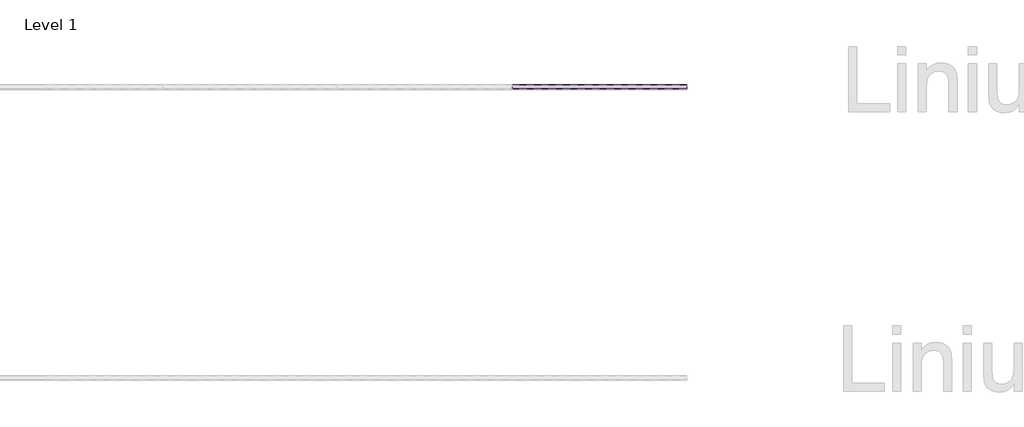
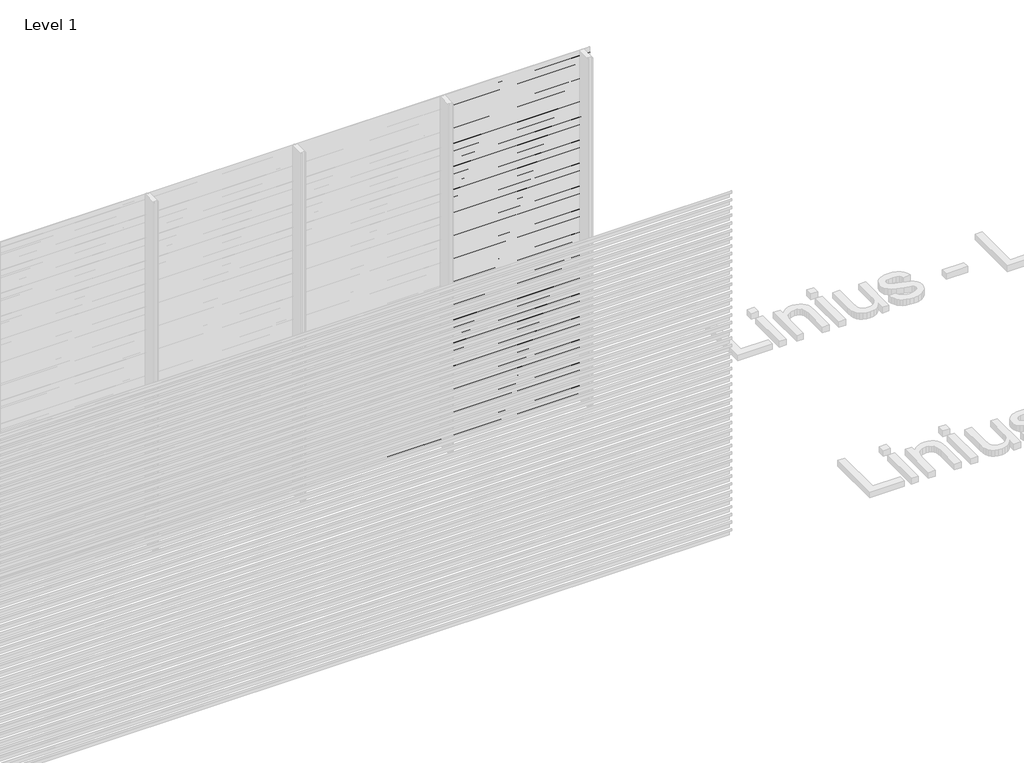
# One storey, part 52 of 540: 47 proxies.
"""IFC4 building model written with IfcOpenShell, lengths in millimetres."""

from ifc_helpers import new_model, si_unit, frame, origin, place, context, project, spatial, polyline, outline, extrude, element, save

model = new_model("IFC4")

# Units and contexts
model_context = context("Model", 3, world=origin())
ifc_project = project(units=[si_unit("LENGTHUNIT", "METRE", prefix="MILLI")], contexts=[model_context])

# Site, building, storey
site = spatial("IfcSite", under=ifc_project)
building = spatial("IfcBuilding", under=site)
storey = spatial("IfcBuildingStorey", under=building, Name="Level 1", Elevation=0.0)

# Proxies
placement = place(None, origin())
element("IfcBuildingElementProxy", 1, Name="Wall Sweeps", at=placement, inside=storey, context=model_context, shape_type="SweptSolid", body=[
    extrude(outline(polyline([(14014.0540136, 92.0), (14014.0540136, 59.0), (14012.8040136, 59.7216933), (14012.8040136, 91.2872415), (13983.0540136, 112.0588647), (13983.0540136, 132.0), (13984.3040136, 132.0), (13984.3040136, 112.7716232), (14014.0540136, 92.0)])), frame((48566.6208097, 0.0, 0.0), z_axis=(1.0, 0.0, 0.0), x_axis=(0.0, 1.0, 0.0)), (0.0, 0.0, 1.0), 1200.0),
])
element("IfcBuildingElementProxy", 2, Name="Wall Sweeps", at=placement, inside=storey, context=model_context, shape_type="SweptSolid", body=[
    extrude(outline(polyline([(14014.0540136, 26.0), (14014.0540136, -7.0), (14012.8040136, -6.2783067), (14012.8040136, 25.2872415), (13983.0540136, 46.0588647), (13983.0540136, 66.0), (13984.3040136, 66.0), (13984.3040136, 46.7716232), (14014.0540136, 26.0)])), frame((48566.6208097, 0.0, 0.0), z_axis=(1.0, 0.0, 0.0), x_axis=(0.0, 1.0, 0.0)), (0.0, 0.0, 1.0), 1200.0),
])
element("IfcBuildingElementProxy", 3, Name="Wall Sweeps", at=placement, inside=storey, context=model_context, shape_type="SweptSolid", body=[
    extrude(outline(polyline([(14014.0540136, 2930.0), (14014.0540136, 2897.0), (14012.8040136, 2897.7216933), (14012.8040136, 2929.2872415), (13983.0540136, 2950.0588647), (13983.0540136, 2970.0), (13984.3040136, 2970.0), (13984.3040136, 2950.7716232), (14014.0540136, 2930.0)])), frame((49766.6208097, 0.0, 0.0), z_axis=(1.0, 0.0, 0.0), x_axis=(0.0, 1.0, 0.0)), (0.0, 0.0, 1.0), 1200.0),
])
element("IfcBuildingElementProxy", 4, Name="Wall Sweeps", at=placement, inside=storey, context=model_context, shape_type="SweptSolid", body=[
    extrude(outline(polyline([(14014.0540136, 2864.0), (14014.0540136, 2831.0), (14012.8040136, 2831.7216933), (14012.8040136, 2863.2872415), (13983.0540136, 2884.0588647), (13983.0540136, 2904.0), (13984.3040136, 2904.0), (13984.3040136, 2884.7716232), (14014.0540136, 2864.0)])), frame((49766.6208097, 0.0, 0.0), z_axis=(1.0, 0.0, 0.0), x_axis=(0.0, 1.0, 0.0)), (0.0, 0.0, 1.0), 1200.0),
])
element("IfcBuildingElementProxy", 5, Name="Wall Sweeps", at=placement, inside=storey, context=model_context, shape_type="SweptSolid", body=[
    extrude(outline(polyline([(14014.0540136, 2798.0), (14014.0540136, 2765.0), (14012.8040136, 2765.7216933), (14012.8040136, 2797.2872415), (13983.0540136, 2818.0588647), (13983.0540136, 2838.0), (13984.3040136, 2838.0), (13984.3040136, 2818.7716232), (14014.0540136, 2798.0)])), frame((49766.6208097, 0.0, 0.0), z_axis=(1.0, 0.0, 0.0), x_axis=(0.0, 1.0, 0.0)), (0.0, 0.0, 1.0), 1200.0),
])
element("IfcBuildingElementProxy", 6, Name="Wall Sweeps", at=placement, inside=storey, context=model_context, shape_type="SweptSolid", body=[
    extrude(outline(polyline([(14014.0540136, 2732.0), (14014.0540136, 2699.0), (14012.8040136, 2699.7216933), (14012.8040136, 2731.2872415), (13983.0540136, 2752.0588647), (13983.0540136, 2772.0), (13984.3040136, 2772.0), (13984.3040136, 2752.7716232), (14014.0540136, 2732.0)])), frame((49766.6208097, 0.0, 0.0), z_axis=(1.0, 0.0, 0.0), x_axis=(0.0, 1.0, 0.0)), (0.0, 0.0, 1.0), 1200.0),
])
element("IfcBuildingElementProxy", 7, Name="Wall Sweeps", at=placement, inside=storey, context=model_context, shape_type="SweptSolid", body=[
    extrude(outline(polyline([(14014.0540136, 2666.0), (14014.0540136, 2633.0), (14012.8040136, 2633.7216933), (14012.8040136, 2665.2872415), (13983.0540136, 2686.0588647), (13983.0540136, 2706.0), (13984.3040136, 2706.0), (13984.3040136, 2686.7716232), (14014.0540136, 2666.0)])), frame((49766.6208097, 0.0, 0.0), z_axis=(1.0, 0.0, 0.0), x_axis=(0.0, 1.0, 0.0)), (0.0, 0.0, 1.0), 1200.0),
])
element("IfcBuildingElementProxy", 8, Name="Wall Sweeps", at=placement, inside=storey, context=model_context, shape_type="SweptSolid", body=[
    extrude(outline(polyline([(14014.0540136, 2600.0), (14014.0540136, 2567.0), (14012.8040136, 2567.7216933), (14012.8040136, 2599.2872415), (13983.0540136, 2620.0588647), (13983.0540136, 2640.0), (13984.3040136, 2640.0), (13984.3040136, 2620.7716232), (14014.0540136, 2600.0)])), frame((49766.6208097, 0.0, 0.0), z_axis=(1.0, 0.0, 0.0), x_axis=(0.0, 1.0, 0.0)), (0.0, 0.0, 1.0), 1200.0),
])
element("IfcBuildingElementProxy", 9, Name="Wall Sweeps", at=placement, inside=storey, context=model_context, shape_type="SweptSolid", body=[
    extrude(outline(polyline([(14014.0540136, 2534.0), (14014.0540136, 2501.0), (14012.8040136, 2501.7216933), (14012.8040136, 2533.2872415), (13983.0540136, 2554.0588647), (13983.0540136, 2574.0), (13984.3040136, 2574.0), (13984.3040136, 2554.7716232), (14014.0540136, 2534.0)])), frame((49766.6208097, 0.0, 0.0), z_axis=(1.0, 0.0, 0.0), x_axis=(0.0, 1.0, 0.0)), (0.0, 0.0, 1.0), 1200.0),
])
element("IfcBuildingElementProxy", 10, Name="Wall Sweeps", at=placement, inside=storey, context=model_context, shape_type="SweptSolid", body=[
    extrude(outline(polyline([(14014.0540136, 2468.0), (14014.0540136, 2435.0), (14012.8040136, 2435.7216933), (14012.8040136, 2467.2872415), (13983.0540136, 2488.0588647), (13983.0540136, 2508.0), (13984.3040136, 2508.0), (13984.3040136, 2488.7716232), (14014.0540136, 2468.0)])), frame((49766.6208097, 0.0, 0.0), z_axis=(1.0, 0.0, 0.0), x_axis=(0.0, 1.0, 0.0)), (0.0, 0.0, 1.0), 1200.0),
])
element("IfcBuildingElementProxy", 11, Name="Wall Sweeps", at=placement, inside=storey, context=model_context, shape_type="SweptSolid", body=[
    extrude(outline(polyline([(14014.0540136, 2402.0), (14014.0540136, 2369.0), (14012.8040136, 2369.7216933), (14012.8040136, 2401.2872415), (13983.0540136, 2422.0588647), (13983.0540136, 2442.0), (13984.3040136, 2442.0), (13984.3040136, 2422.7716232), (14014.0540136, 2402.0)])), frame((49766.6208097, 0.0, 0.0), z_axis=(1.0, 0.0, 0.0), x_axis=(0.0, 1.0, 0.0)), (0.0, 0.0, 1.0), 1200.0),
])
element("IfcBuildingElementProxy", 12, Name="Wall Sweeps", at=placement, inside=storey, context=model_context, shape_type="SweptSolid", body=[
    extrude(outline(polyline([(14014.0540136, 2336.0), (14014.0540136, 2303.0), (14012.8040136, 2303.7216933), (14012.8040136, 2335.2872415), (13983.0540136, 2356.0588647), (13983.0540136, 2376.0), (13984.3040136, 2376.0), (13984.3040136, 2356.7716232), (14014.0540136, 2336.0)])), frame((49766.6208097, 0.0, 0.0), z_axis=(1.0, 0.0, 0.0), x_axis=(0.0, 1.0, 0.0)), (0.0, 0.0, 1.0), 1200.0),
])
element("IfcBuildingElementProxy", 13, Name="Wall Sweeps", at=placement, inside=storey, context=model_context, shape_type="SweptSolid", body=[
    extrude(outline(polyline([(14014.0540136, 2270.0), (14014.0540136, 2237.0), (14012.8040136, 2237.7216933), (14012.8040136, 2269.2872415), (13983.0540136, 2290.0588647), (13983.0540136, 2310.0), (13984.3040136, 2310.0), (13984.3040136, 2290.7716232), (14014.0540136, 2270.0)])), frame((49766.6208097, 0.0, 0.0), z_axis=(1.0, 0.0, 0.0), x_axis=(0.0, 1.0, 0.0)), (0.0, 0.0, 1.0), 1200.0),
])
element("IfcBuildingElementProxy", 14, Name="Wall Sweeps", at=placement, inside=storey, context=model_context, shape_type="SweptSolid", body=[
    extrude(outline(polyline([(14014.0540136, 2204.0), (14014.0540136, 2171.0), (14012.8040136, 2171.7216933), (14012.8040136, 2203.2872415), (13983.0540136, 2224.0588647), (13983.0540136, 2244.0), (13984.3040136, 2244.0), (13984.3040136, 2224.7716232), (14014.0540136, 2204.0)])), frame((49766.6208097, 0.0, 0.0), z_axis=(1.0, 0.0, 0.0), x_axis=(0.0, 1.0, 0.0)), (0.0, 0.0, 1.0), 1200.0),
])
element("IfcBuildingElementProxy", 15, Name="Wall Sweeps", at=placement, inside=storey, context=model_context, shape_type="SweptSolid", body=[
    extrude(outline(polyline([(14014.0540136, 2138.0), (14014.0540136, 2105.0), (14012.8040136, 2105.7216933), (14012.8040136, 2137.2872415), (13983.0540136, 2158.0588647), (13983.0540136, 2178.0), (13984.3040136, 2178.0), (13984.3040136, 2158.7716232), (14014.0540136, 2138.0)])), frame((49766.6208097, 0.0, 0.0), z_axis=(1.0, 0.0, 0.0), x_axis=(0.0, 1.0, 0.0)), (0.0, 0.0, 1.0), 1200.0),
])
element("IfcBuildingElementProxy", 16, Name="Wall Sweeps", at=placement, inside=storey, context=model_context, shape_type="SweptSolid", body=[
    extrude(outline(polyline([(14014.0540136, 2072.0), (14014.0540136, 2039.0), (14012.8040136, 2039.7216933), (14012.8040136, 2071.2872415), (13983.0540136, 2092.0588647), (13983.0540136, 2112.0), (13984.3040136, 2112.0), (13984.3040136, 2092.7716232), (14014.0540136, 2072.0)])), frame((49766.6208097, 0.0, 0.0), z_axis=(1.0, 0.0, 0.0), x_axis=(0.0, 1.0, 0.0)), (0.0, 0.0, 1.0), 1200.0),
])
element("IfcBuildingElementProxy", 17, Name="Wall Sweeps", at=placement, inside=storey, context=model_context, shape_type="SweptSolid", body=[
    extrude(outline(polyline([(14014.0540136, 2006.0), (14014.0540136, 1973.0), (14012.8040136, 1973.7216933), (14012.8040136, 2005.2872415), (13983.0540136, 2026.0588647), (13983.0540136, 2046.0), (13984.3040136, 2046.0), (13984.3040136, 2026.7716232), (14014.0540136, 2006.0)])), frame((49766.6208097, 0.0, 0.0), z_axis=(1.0, 0.0, 0.0), x_axis=(0.0, 1.0, 0.0)), (0.0, 0.0, 1.0), 1200.0),
])
element("IfcBuildingElementProxy", 18, Name="Wall Sweeps", at=placement, inside=storey, context=model_context, shape_type="SweptSolid", body=[
    extrude(outline(polyline([(14014.0540136, 1940.0), (14014.0540136, 1907.0), (14012.8040136, 1907.7216933), (14012.8040136, 1939.2872415), (13983.0540136, 1960.0588647), (13983.0540136, 1980.0), (13984.3040136, 1980.0), (13984.3040136, 1960.7716232), (14014.0540136, 1940.0)])), frame((49766.6208097, 0.0, 0.0), z_axis=(1.0, 0.0, 0.0), x_axis=(0.0, 1.0, 0.0)), (0.0, 0.0, 1.0), 1200.0),
])
element("IfcBuildingElementProxy", 19, Name="Wall Sweeps", at=placement, inside=storey, context=model_context, shape_type="SweptSolid", body=[
    extrude(outline(polyline([(14014.0540136, 1874.0), (14014.0540136, 1841.0), (14012.8040136, 1841.7216933), (14012.8040136, 1873.2872415), (13983.0540136, 1894.0588647), (13983.0540136, 1914.0), (13984.3040136, 1914.0), (13984.3040136, 1894.7716232), (14014.0540136, 1874.0)])), frame((49766.6208097, 0.0, 0.0), z_axis=(1.0, 0.0, 0.0), x_axis=(0.0, 1.0, 0.0)), (0.0, 0.0, 1.0), 1200.0),
])
element("IfcBuildingElementProxy", 20, Name="Wall Sweeps", at=placement, inside=storey, context=model_context, shape_type="SweptSolid", body=[
    extrude(outline(polyline([(14014.0540136, 1808.0), (14014.0540136, 1775.0), (14012.8040136, 1775.7216933), (14012.8040136, 1807.2872415), (13983.0540136, 1828.0588647), (13983.0540136, 1848.0), (13984.3040136, 1848.0), (13984.3040136, 1828.7716232), (14014.0540136, 1808.0)])), frame((49766.6208097, 0.0, 0.0), z_axis=(1.0, 0.0, 0.0), x_axis=(0.0, 1.0, 0.0)), (0.0, 0.0, 1.0), 1200.0),
])
element("IfcBuildingElementProxy", 21, Name="Wall Sweeps", at=placement, inside=storey, context=model_context, shape_type="SweptSolid", body=[
    extrude(outline(polyline([(14014.0540136, 1742.0), (14014.0540136, 1709.0), (14012.8040136, 1709.7216933), (14012.8040136, 1741.2872415), (13983.0540136, 1762.0588647), (13983.0540136, 1782.0), (13984.3040136, 1782.0), (13984.3040136, 1762.7716232), (14014.0540136, 1742.0)])), frame((49766.6208097, 0.0, 0.0), z_axis=(1.0, 0.0, 0.0), x_axis=(0.0, 1.0, 0.0)), (0.0, 0.0, 1.0), 1200.0),
])
element("IfcBuildingElementProxy", 22, Name="Wall Sweeps", at=placement, inside=storey, context=model_context, shape_type="SweptSolid", body=[
    extrude(outline(polyline([(14014.0540136, 1676.0), (14014.0540136, 1643.0), (14012.8040136, 1643.7216933), (14012.8040136, 1675.2872415), (13983.0540136, 1696.0588647), (13983.0540136, 1716.0), (13984.3040136, 1716.0), (13984.3040136, 1696.7716232), (14014.0540136, 1676.0)])), frame((49766.6208097, 0.0, 0.0), z_axis=(1.0, 0.0, 0.0), x_axis=(0.0, 1.0, 0.0)), (0.0, 0.0, 1.0), 1200.0),
])
element("IfcBuildingElementProxy", 23, Name="Wall Sweeps", at=placement, inside=storey, context=model_context, shape_type="SweptSolid", body=[
    extrude(outline(polyline([(14014.0540136, 1610.0), (14014.0540136, 1577.0), (14012.8040136, 1577.7216933), (14012.8040136, 1609.2872415), (13983.0540136, 1630.0588647), (13983.0540136, 1650.0), (13984.3040136, 1650.0), (13984.3040136, 1630.7716232), (14014.0540136, 1610.0)])), frame((49766.6208097, 0.0, 0.0), z_axis=(1.0, 0.0, 0.0), x_axis=(0.0, 1.0, 0.0)), (0.0, 0.0, 1.0), 1200.0),
])
element("IfcBuildingElementProxy", 24, Name="Wall Sweeps", at=placement, inside=storey, context=model_context, shape_type="SweptSolid", body=[
    extrude(outline(polyline([(14014.0540136, 1544.0), (14014.0540136, 1511.0), (14012.8040136, 1511.7216933), (14012.8040136, 1543.2872415), (13983.0540136, 1564.0588647), (13983.0540136, 1584.0), (13984.3040136, 1584.0), (13984.3040136, 1564.7716232), (14014.0540136, 1544.0)])), frame((49766.6208097, 0.0, 0.0), z_axis=(1.0, 0.0, 0.0), x_axis=(0.0, 1.0, 0.0)), (0.0, 0.0, 1.0), 1200.0),
])
element("IfcBuildingElementProxy", 25, Name="Wall Sweeps", at=placement, inside=storey, context=model_context, shape_type="SweptSolid", body=[
    extrude(outline(polyline([(14014.0540136, 1478.0), (14014.0540136, 1445.0), (14012.8040136, 1445.7216933), (14012.8040136, 1477.2872415), (13983.0540136, 1498.0588647), (13983.0540136, 1518.0), (13984.3040136, 1518.0), (13984.3040136, 1498.7716232), (14014.0540136, 1478.0)])), frame((49766.6208097, 0.0, 0.0), z_axis=(1.0, 0.0, 0.0), x_axis=(0.0, 1.0, 0.0)), (0.0, 0.0, 1.0), 1200.0),
])
element("IfcBuildingElementProxy", 26, Name="Wall Sweeps", at=placement, inside=storey, context=model_context, shape_type="SweptSolid", body=[
    extrude(outline(polyline([(14014.0540136, 1412.0), (14014.0540136, 1379.0), (14012.8040136, 1379.7216933), (14012.8040136, 1411.2872415), (13983.0540136, 1432.0588647), (13983.0540136, 1452.0), (13984.3040136, 1452.0), (13984.3040136, 1432.7716232), (14014.0540136, 1412.0)])), frame((49766.6208097, 0.0, 0.0), z_axis=(1.0, 0.0, 0.0), x_axis=(0.0, 1.0, 0.0)), (0.0, 0.0, 1.0), 1200.0),
])
element("IfcBuildingElementProxy", 27, Name="Wall Sweeps", at=placement, inside=storey, context=model_context, shape_type="SweptSolid", body=[
    extrude(outline(polyline([(14014.0540136, 1346.0), (14014.0540136, 1313.0), (14012.8040136, 1313.7216933), (14012.8040136, 1345.2872415), (13983.0540136, 1366.0588647), (13983.0540136, 1386.0), (13984.3040136, 1386.0), (13984.3040136, 1366.7716232), (14014.0540136, 1346.0)])), frame((49766.6208097, 0.0, 0.0), z_axis=(1.0, 0.0, 0.0), x_axis=(0.0, 1.0, 0.0)), (0.0, 0.0, 1.0), 1200.0),
])
element("IfcBuildingElementProxy", 28, Name="Wall Sweeps", at=placement, inside=storey, context=model_context, shape_type="SweptSolid", body=[
    extrude(outline(polyline([(14014.0540136, 1280.0), (14014.0540136, 1247.0), (14012.8040136, 1247.7216933), (14012.8040136, 1279.2872415), (13983.0540136, 1300.0588647), (13983.0540136, 1320.0), (13984.3040136, 1320.0), (13984.3040136, 1300.7716232), (14014.0540136, 1280.0)])), frame((49766.6208097, 0.0, 0.0), z_axis=(1.0, 0.0, 0.0), x_axis=(0.0, 1.0, 0.0)), (0.0, 0.0, 1.0), 1200.0),
])
element("IfcBuildingElementProxy", 29, Name="Wall Sweeps", at=placement, inside=storey, context=model_context, shape_type="SweptSolid", body=[
    extrude(outline(polyline([(14014.0540136, 1214.0), (14014.0540136, 1181.0), (14012.8040136, 1181.7216933), (14012.8040136, 1213.2872415), (13983.0540136, 1234.0588647), (13983.0540136, 1254.0), (13984.3040136, 1254.0), (13984.3040136, 1234.7716232), (14014.0540136, 1214.0)])), frame((49766.6208097, 0.0, 0.0), z_axis=(1.0, 0.0, 0.0), x_axis=(0.0, 1.0, 0.0)), (0.0, 0.0, 1.0), 1200.0),
])
element("IfcBuildingElementProxy", 30, Name="Wall Sweeps", at=placement, inside=storey, context=model_context, shape_type="SweptSolid", body=[
    extrude(outline(polyline([(14014.0540136, 1148.0), (14014.0540136, 1115.0), (14012.8040136, 1115.7216933), (14012.8040136, 1147.2872415), (13983.0540136, 1168.0588647), (13983.0540136, 1188.0), (13984.3040136, 1188.0), (13984.3040136, 1168.7716232), (14014.0540136, 1148.0)])), frame((49766.6208097, 0.0, 0.0), z_axis=(1.0, 0.0, 0.0), x_axis=(0.0, 1.0, 0.0)), (0.0, 0.0, 1.0), 1200.0),
])
element("IfcBuildingElementProxy", 31, Name="Wall Sweeps", at=placement, inside=storey, context=model_context, shape_type="SweptSolid", body=[
    extrude(outline(polyline([(14014.0540136, 1082.0), (14014.0540136, 1049.0), (14012.8040136, 1049.7216933), (14012.8040136, 1081.2872415), (13983.0540136, 1102.0588647), (13983.0540136, 1122.0), (13984.3040136, 1122.0), (13984.3040136, 1102.7716232), (14014.0540136, 1082.0)])), frame((49766.6208097, 0.0, 0.0), z_axis=(1.0, 0.0, 0.0), x_axis=(0.0, 1.0, 0.0)), (0.0, 0.0, 1.0), 1200.0),
])
element("IfcBuildingElementProxy", 32, Name="Wall Sweeps", at=placement, inside=storey, context=model_context, shape_type="SweptSolid", body=[
    extrude(outline(polyline([(14014.0540136, 1016.0), (14014.0540136, 983.0), (14012.8040136, 983.7216933), (14012.8040136, 1015.2872415), (13983.0540136, 1036.0588647), (13983.0540136, 1056.0), (13984.3040136, 1056.0), (13984.3040136, 1036.7716232), (14014.0540136, 1016.0)])), frame((49766.6208097, 0.0, 0.0), z_axis=(1.0, 0.0, 0.0), x_axis=(0.0, 1.0, 0.0)), (0.0, 0.0, 1.0), 1200.0),
])
element("IfcBuildingElementProxy", 33, Name="Wall Sweeps", at=placement, inside=storey, context=model_context, shape_type="SweptSolid", body=[
    extrude(outline(polyline([(14014.0540136, 950.0), (14014.0540136, 917.0), (14012.8040136, 917.7216933), (14012.8040136, 949.2872415), (13983.0540136, 970.0588647), (13983.0540136, 990.0), (13984.3040136, 990.0), (13984.3040136, 970.7716232), (14014.0540136, 950.0)])), frame((49766.6208097, 0.0, 0.0), z_axis=(1.0, 0.0, 0.0), x_axis=(0.0, 1.0, 0.0)), (0.0, 0.0, 1.0), 1200.0),
])
element("IfcBuildingElementProxy", 34, Name="Wall Sweeps", at=placement, inside=storey, context=model_context, shape_type="SweptSolid", body=[
    extrude(outline(polyline([(14014.0540136, 884.0), (14014.0540136, 851.0), (14012.8040136, 851.7216933), (14012.8040136, 883.2872415), (13983.0540136, 904.0588647), (13983.0540136, 924.0), (13984.3040136, 924.0), (13984.3040136, 904.7716232), (14014.0540136, 884.0)])), frame((49766.6208097, 0.0, 0.0), z_axis=(1.0, 0.0, 0.0), x_axis=(0.0, 1.0, 0.0)), (0.0, 0.0, 1.0), 1200.0),
])
element("IfcBuildingElementProxy", 35, Name="Wall Sweeps", at=placement, inside=storey, context=model_context, shape_type="SweptSolid", body=[
    extrude(outline(polyline([(14014.0540136, 818.0), (14014.0540136, 785.0), (14012.8040136, 785.7216933), (14012.8040136, 817.2872415), (13983.0540136, 838.0588647), (13983.0540136, 858.0), (13984.3040136, 858.0), (13984.3040136, 838.7716232), (14014.0540136, 818.0)])), frame((49766.6208097, 0.0, 0.0), z_axis=(1.0, 0.0, 0.0), x_axis=(0.0, 1.0, 0.0)), (0.0, 0.0, 1.0), 1200.0),
])
element("IfcBuildingElementProxy", 36, Name="Wall Sweeps", at=placement, inside=storey, context=model_context, shape_type="SweptSolid", body=[
    extrude(outline(polyline([(14014.0540136, 752.0), (14014.0540136, 719.0), (14012.8040136, 719.7216933), (14012.8040136, 751.2872415), (13983.0540136, 772.0588647), (13983.0540136, 792.0), (13984.3040136, 792.0), (13984.3040136, 772.7716232), (14014.0540136, 752.0)])), frame((49766.6208097, 0.0, 0.0), z_axis=(1.0, 0.0, 0.0), x_axis=(0.0, 1.0, 0.0)), (0.0, 0.0, 1.0), 1200.0),
])
element("IfcBuildingElementProxy", 37, Name="Wall Sweeps", at=placement, inside=storey, context=model_context, shape_type="SweptSolid", body=[
    extrude(outline(polyline([(14014.0540136, 686.0), (14014.0540136, 653.0), (14012.8040136, 653.7216933), (14012.8040136, 685.2872415), (13983.0540136, 706.0588647), (13983.0540136, 726.0), (13984.3040136, 726.0), (13984.3040136, 706.7716232), (14014.0540136, 686.0)])), frame((49766.6208097, 0.0, 0.0), z_axis=(1.0, 0.0, 0.0), x_axis=(0.0, 1.0, 0.0)), (0.0, 0.0, 1.0), 1200.0),
])
element("IfcBuildingElementProxy", 38, Name="Wall Sweeps", at=placement, inside=storey, context=model_context, shape_type="SweptSolid", body=[
    extrude(outline(polyline([(14014.0540136, 620.0), (14014.0540136, 587.0), (14012.8040136, 587.7216933), (14012.8040136, 619.2872415), (13983.0540136, 640.0588647), (13983.0540136, 660.0), (13984.3040136, 660.0), (13984.3040136, 640.7716232), (14014.0540136, 620.0)])), frame((49766.6208097, 0.0, 0.0), z_axis=(1.0, 0.0, 0.0), x_axis=(0.0, 1.0, 0.0)), (0.0, 0.0, 1.0), 1200.0),
])
element("IfcBuildingElementProxy", 39, Name="Wall Sweeps", at=placement, inside=storey, context=model_context, shape_type="SweptSolid", body=[
    extrude(outline(polyline([(14014.0540136, 554.0), (14014.0540136, 521.0), (14012.8040136, 521.7216933), (14012.8040136, 553.2872415), (13983.0540136, 574.0588647), (13983.0540136, 594.0), (13984.3040136, 594.0), (13984.3040136, 574.7716232), (14014.0540136, 554.0)])), frame((49766.6208097, 0.0, 0.0), z_axis=(1.0, 0.0, 0.0), x_axis=(0.0, 1.0, 0.0)), (0.0, 0.0, 1.0), 1200.0),
])
element("IfcBuildingElementProxy", 40, Name="Wall Sweeps", at=placement, inside=storey, context=model_context, shape_type="SweptSolid", body=[
    extrude(outline(polyline([(14014.0540136, 488.0), (14014.0540136, 455.0), (14012.8040136, 455.7216933), (14012.8040136, 487.2872415), (13983.0540136, 508.0588647), (13983.0540136, 528.0), (13984.3040136, 528.0), (13984.3040136, 508.7716232), (14014.0540136, 488.0)])), frame((49766.6208097, 0.0, 0.0), z_axis=(1.0, 0.0, 0.0), x_axis=(0.0, 1.0, 0.0)), (0.0, 0.0, 1.0), 1200.0),
])
element("IfcBuildingElementProxy", 41, Name="Wall Sweeps", at=placement, inside=storey, context=model_context, shape_type="SweptSolid", body=[
    extrude(outline(polyline([(14014.0540136, 422.0), (14014.0540136, 389.0), (14012.8040136, 389.7216933), (14012.8040136, 421.2872415), (13983.0540136, 442.0588647), (13983.0540136, 462.0), (13984.3040136, 462.0), (13984.3040136, 442.7716232), (14014.0540136, 422.0)])), frame((49766.6208097, 0.0, 0.0), z_axis=(1.0, 0.0, 0.0), x_axis=(0.0, 1.0, 0.0)), (0.0, 0.0, 1.0), 1200.0),
])
element("IfcBuildingElementProxy", 42, Name="Wall Sweeps", at=placement, inside=storey, context=model_context, shape_type="SweptSolid", body=[
    extrude(outline(polyline([(14014.0540136, 356.0), (14014.0540136, 323.0), (14012.8040136, 323.7216933), (14012.8040136, 355.2872415), (13983.0540136, 376.0588647), (13983.0540136, 396.0), (13984.3040136, 396.0), (13984.3040136, 376.7716232), (14014.0540136, 356.0)])), frame((49766.6208097, 0.0, 0.0), z_axis=(1.0, 0.0, 0.0), x_axis=(0.0, 1.0, 0.0)), (0.0, 0.0, 1.0), 1200.0),
])
element("IfcBuildingElementProxy", 43, Name="Wall Sweeps", at=placement, inside=storey, context=model_context, shape_type="SweptSolid", body=[
    extrude(outline(polyline([(14014.0540136, 290.0), (14014.0540136, 257.0), (14012.8040136, 257.7216933), (14012.8040136, 289.2872415), (13983.0540136, 310.0588647), (13983.0540136, 330.0), (13984.3040136, 330.0), (13984.3040136, 310.7716232), (14014.0540136, 290.0)])), frame((49766.6208097, 0.0, 0.0), z_axis=(1.0, 0.0, 0.0), x_axis=(0.0, 1.0, 0.0)), (0.0, 0.0, 1.0), 1200.0),
])
element("IfcBuildingElementProxy", 44, Name="Wall Sweeps", at=placement, inside=storey, context=model_context, shape_type="SweptSolid", body=[
    extrude(outline(polyline([(14014.0540136, 224.0), (14014.0540136, 191.0), (14012.8040136, 191.7216933), (14012.8040136, 223.2872415), (13983.0540136, 244.0588647), (13983.0540136, 264.0), (13984.3040136, 264.0), (13984.3040136, 244.7716232), (14014.0540136, 224.0)])), frame((49766.6208097, 0.0, 0.0), z_axis=(1.0, 0.0, 0.0), x_axis=(0.0, 1.0, 0.0)), (0.0, 0.0, 1.0), 1200.0),
])
element("IfcBuildingElementProxy", 45, Name="Wall Sweeps", at=placement, inside=storey, context=model_context, shape_type="SweptSolid", body=[
    extrude(outline(polyline([(14014.0540136, 158.0), (14014.0540136, 125.0), (14012.8040136, 125.7216933), (14012.8040136, 157.2872415), (13983.0540136, 178.0588647), (13983.0540136, 198.0), (13984.3040136, 198.0), (13984.3040136, 178.7716232), (14014.0540136, 158.0)])), frame((49766.6208097, 0.0, 0.0), z_axis=(1.0, 0.0, 0.0), x_axis=(0.0, 1.0, 0.0)), (0.0, 0.0, 1.0), 1200.0),
])
element("IfcBuildingElementProxy", 46, Name="Wall Sweeps", at=placement, inside=storey, context=model_context, shape_type="SweptSolid", body=[
    extrude(outline(polyline([(14014.0540136, 92.0), (14014.0540136, 59.0), (14012.8040136, 59.7216933), (14012.8040136, 91.2872415), (13983.0540136, 112.0588647), (13983.0540136, 132.0), (13984.3040136, 132.0), (13984.3040136, 112.7716232), (14014.0540136, 92.0)])), frame((49766.6208097, 0.0, 0.0), z_axis=(1.0, 0.0, 0.0), x_axis=(0.0, 1.0, 0.0)), (0.0, 0.0, 1.0), 1200.0),
])
element("IfcBuildingElementProxy", 47, Name="Wall Sweeps", at=placement, inside=storey, context=model_context, shape_type="SweptSolid", body=[
    extrude(outline(polyline([(14014.0540136, 26.0), (14014.0540136, -7.0), (14012.8040136, -6.2783067), (14012.8040136, 25.2872415), (13983.0540136, 46.0588647), (13983.0540136, 66.0), (13984.3040136, 66.0), (13984.3040136, 46.7716232), (14014.0540136, 26.0)])), frame((49766.6208097, 0.0, 0.0), z_axis=(1.0, 0.0, 0.0), x_axis=(0.0, 1.0, 0.0)), (0.0, 0.0, 1.0), 1200.0),
])

save(model, "model.ifc")
